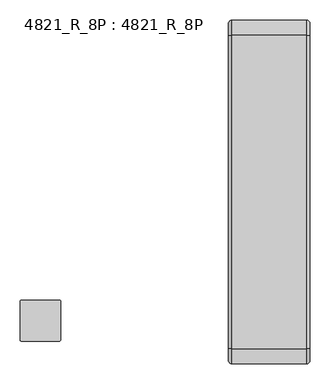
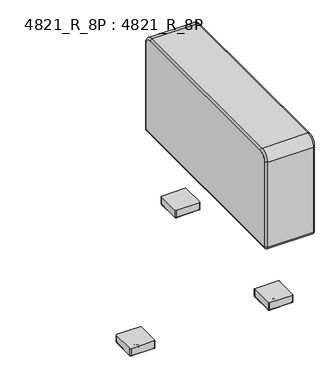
"""IFC4 building model written with IfcOpenShell, lengths in millimetres: furniture geometry, 4821_R_8P : 4821_R_8P."""

from ifc_helpers import new_model, si_unit, point, frame, frame_2d, origin, place, context, project, spatial, polyline, circle_curve, ellipse_curve, trimmed, segment, composite_curve, outline, extrude, source, transform, mapped, element, save
from ifc_brep_helpers import plane_surface, cylinder_surface, revolved_surface, advanced_brep


def furniture_4821_r_8p_4821_r_8p_0f517ffc(model_context):
    return source(origin(), model_context, "Body", "SolidModel", [
        advanced_brep(
        [(0.0, -8.89, 698.8175), (0.0, -38.1, 728.0275), (0.0, -819.15, 728.0275), (0.0, -848.36, 698.8175), (0.0, -848.36, 330.4403326), (0.0, -847.8021674, 329.8825), (0.0, -9.4347305, 329.8825), (0.0, -8.89, 330.4272305), (-203.2, -38.1, 728.0275), (-203.2, -8.89, 698.8175), (-203.2, -8.89, 330.4272305), (-203.2, -9.4347305, 329.8825), (-203.2, -847.8021674, 329.8825), (-203.2, -848.36, 330.4403326), (-203.2, -848.36, 698.8175), (-203.2, -819.15, 728.0275), (-194.31, -38.1, 736.9175), (-194.31, -819.15, 736.9175), (-8.89, -819.15, 736.9175), (-8.89, -38.1, 736.9175), (-194.31, -857.25, 698.8175), (-8.89, -857.25, 698.8175), (-194.31, -857.25, 330.4403326), (-8.89, -857.25, 330.4403326), (-194.31, -847.8021674, 320.9925), (-8.89, -847.8021674, 320.9925), (-194.31, -9.4347305, 320.9925), (-8.89, -9.4347305, 320.9925), (-146.05, -187.325, 320.9925), (-146.05, -161.925, 320.9925), (-146.05, -695.325, 320.9925), (-146.05, -669.925, 320.9925), (-194.31, 0.0, 330.4272305), (-8.89, 0.0, 330.4272305), (-194.31, 0.0, 698.8175), (-8.89, 0.0, 698.8175), (-146.05, -161.925, 333.6925), (-146.05, -187.325, 333.6925), (-146.05, -669.925, 333.6925), (-146.05, -695.325, 333.6925)],
        [
            (0, 1, circle_curve(frame((0.0, -38.1, 698.8175), z_axis=(1.0, 0.0, 0.0), x_axis=(0.0, 0.0, 1.0)), 29.21)),
            (1, 2),
            (2, 3, circle_curve(frame((0.0, -819.15, 698.8175), z_axis=(1.0, 0.0, 0.0), x_axis=(0.0, -1.0, 0.0)), 29.21)),
            (3, 4),
            (4, 5, circle_curve(frame((0.0, -847.8021674, 330.4403326), z_axis=(1.0, 0.0, 0.0), x_axis=(0.0, 0.0, -1.0)), 0.5578326)),
            (5, 6),
            (6, 7, circle_curve(frame((0.0, -9.4347305, 330.4272305), z_axis=(1.0, 0.0, 0.0), x_axis=(0.0, 1.0, 0.0)), 0.5447305)),
            (7, 0),
            (8, 9, circle_curve(frame((-203.2, -38.1, 698.8175), z_axis=(-1.0, 0.0, 0.0), x_axis=(0.0, 0.0, 1.0)), 29.21)),
            (9, 10),
            (10, 11, circle_curve(frame((-203.2, -9.4347305, 330.4272305), z_axis=(-1.0, 0.0, 0.0), x_axis=(0.0, 1.0, 0.0)), 0.5447305)),
            (11, 12),
            (12, 13, circle_curve(frame((-203.2, -847.8021674, 330.4403326), z_axis=(-1.0, 0.0, 0.0), x_axis=(0.0, 0.0, -1.0)), 0.5578326)),
            (13, 14),
            (14, 15, circle_curve(frame((-203.2, -819.15, 698.8175), z_axis=(-1.0, 0.0, 0.0), x_axis=(0.0, -1.0, 0.0)), 29.21)),
            (15, 8),
            (16, 17),
            (17, 18),
            (18, 19),
            (19, 16),
            (17, 20, circle_curve(frame((-194.31, -819.15, 698.8175), z_axis=(1.0, 0.0, 0.0), x_axis=(0.0, -1.0, 0.0)), 38.1)),
            (20, 21),
            (21, 18, circle_curve(frame((-8.89, -819.15, 698.8175), z_axis=(-1.0, 0.0, 0.0), x_axis=(0.0, -1.0, 0.0)), 38.1)),
            (20, 22),
            (22, 23),
            (23, 21),
            (22, 24, circle_curve(frame((-194.31, -847.8021674, 330.4403326), z_axis=(1.0, 0.0, 0.0), x_axis=(0.0, -1.0, 0.0)), 9.4478326)),
            (24, 25),
            (25, 23, circle_curve(frame((-8.89, -847.8021674, 330.4403326), z_axis=(-1.0, 0.0, 0.0), x_axis=(0.0, -1.0, 0.0)), 9.4478326)),
            (24, 26),
            (26, 27),
            (27, 25),
            (28, 29, circle_curve(frame((-146.05, -174.625, 320.9925), z_axis=(0.0, 0.0, 1.0), x_axis=(-1.0, 0.0, 0.0)), 12.7)),
            (29, 28),
            (30, 31, circle_curve(frame((-146.05, -682.625, 320.9925), z_axis=(0.0, 0.0, 1.0), x_axis=(-1.0, 0.0, 0.0)), 12.7)),
            (31, 30),
            (26, 32, circle_curve(frame((-194.31, -9.4347305, 330.4272305), z_axis=(1.0, 0.0, 0.0), x_axis=(0.0, -1.0, 0.0)), 9.4347305)),
            (32, 33),
            (33, 27, circle_curve(frame((-8.89, -9.4347305, 330.4272305), z_axis=(-1.0, 0.0, 0.0), x_axis=(0.0, -1.0, 0.0)), 9.4347305)),
            (32, 34),
            (34, 35),
            (35, 33),
            (34, 16, circle_curve(frame((-194.31, -38.1, 698.8175), z_axis=(1.0, 0.0, 0.0), x_axis=(0.0, -1.0, 0.0)), 38.1)),
            (19, 35, circle_curve(frame((-8.89, -38.1, 698.8175), z_axis=(-1.0, 0.0, 0.0), x_axis=(0.0, -1.0, 0.0)), 38.1)),
            (34, 9, circle_curve(frame((-194.31, -8.89, 698.8175), z_axis=(0.0, 0.0, 1.0), x_axis=(1.0, 0.0, 0.0)), 8.89)),
            (8, 16, circle_curve(frame((-194.31, -38.1, 728.0275), z_axis=(0.0, 1.0, 0.0), x_axis=(1.0, 0.0, 0.0)), 8.89)),
            (32, 10, circle_curve(frame((-194.31, -8.89, 330.4272305), z_axis=(0.0, 0.0, 1.0), x_axis=(1.0, 0.0, 0.0)), 8.89)),
            (26, 11, circle_curve(frame((-194.31, -9.4347305, 329.8825), z_axis=(0.0, 1.0, 0.0), x_axis=(1.0, 0.0, 0.0)), 8.89)),
            (24, 12, circle_curve(frame((-194.31, -847.8021674, 329.8825), z_axis=(0.0, 1.0, 0.0), x_axis=(1.0, 0.0, 0.0)), 8.89)),
            (22, 13, circle_curve(frame((-194.31, -848.36, 330.4403326), z_axis=(0.0, 0.0, -1.0), x_axis=(1.0, 0.0, 0.0)), 8.89)),
            (20, 14, circle_curve(frame((-194.31, -848.36, 698.8175), z_axis=(0.0, 0.0, -1.0), x_axis=(1.0, 0.0, 0.0)), 8.89)),
            (17, 15, circle_curve(frame((-194.31, -819.15, 728.0275), z_axis=(0.0, -1.0, 0.0), x_axis=(1.0, 0.0, 0.0)), 8.89)),
            (0, 35, circle_curve(frame((-8.89, -8.89, 698.8175), z_axis=(0.0, 0.0, 1.0), x_axis=(-1.0, 0.0, 0.0)), 8.89)),
            (19, 1, circle_curve(frame((-8.89, -38.1, 728.0275), z_axis=(0.0, 1.0, 0.0), x_axis=(-1.0, 0.0, 0.0)), 8.89)),
            (7, 33, circle_curve(frame((-8.89, -8.89, 330.4272305), z_axis=(0.0, 0.0, 1.0), x_axis=(-1.0, 0.0, 0.0)), 8.89)),
            (6, 27, circle_curve(frame((-8.89, -9.4347305, 329.8825), z_axis=(0.0, 1.0, 0.0), x_axis=(-1.0, 0.0, 0.0)), 8.89)),
            (5, 25, circle_curve(frame((-8.89, -847.8021674, 329.8825), z_axis=(0.0, 1.0, 0.0), x_axis=(-1.0, 0.0, 0.0)), 8.89)),
            (4, 23, circle_curve(frame((-8.89, -848.36, 330.4403326), z_axis=(0.0, 0.0, -1.0), x_axis=(-1.0, 0.0, 0.0)), 8.89)),
            (3, 21, circle_curve(frame((-8.89, -848.36, 698.8175), z_axis=(0.0, 0.0, -1.0), x_axis=(-1.0, 0.0, 0.0)), 8.89)),
            (2, 18, circle_curve(frame((-8.89, -819.15, 728.0275), z_axis=(0.0, -1.0, 0.0), x_axis=(-1.0, 0.0, 0.0)), 8.89)),
            (36, 37, circle_curve(frame((-146.05, -174.625, 333.6925), z_axis=(0.0, 0.0, -1.0), x_axis=(-1.0, 0.0, 0.0)), 12.7)),
            (37, 36),
            (38, 39, circle_curve(frame((-146.05, -682.625, 333.6925), z_axis=(0.0, 0.0, -1.0), x_axis=(-1.0, 0.0, 0.0)), 12.7)),
            (39, 38),
            (36, 29),
            (28, 37),
            (38, 31),
            (30, 39),
        ],
        [
            plane_surface(frame((0.0, -819.15, 736.9175), z_axis=(1.0, 0.0, 0.0), x_axis=(0.0, -1.0, 0.0))),
            plane_surface(frame((-203.2, -819.15, 736.9175), z_axis=(-1.0, 0.0, 0.0), x_axis=(0.0, 1.0, 0.0))),
            plane_surface(frame((0.0, -38.1, 736.9175), z_axis=(0.0, 0.0, 1.0), x_axis=(-1.0, 0.0, 0.0))),
            cylinder_surface(frame((-203.2, -819.15, 698.8175), z_axis=(1.0, 0.0, 0.0), x_axis=(0.0, -1.0, 0.0)), 38.1),
            plane_surface(frame((0.0, -857.25, 698.8175), z_axis=(0.0, -1.0, 0.0), x_axis=(-1.0, 0.0, 0.0))),
            cylinder_surface(frame((-203.2, -847.8021674, 330.4403326), z_axis=(1.0, 0.0, 0.0), x_axis=(0.0, -1.0, 0.0)), 9.4478326),
            plane_surface(frame((0.0, -847.8021674, 320.9925), z_axis=(0.0, 0.0, -1.0), x_axis=(-1.0, 0.0, 0.0))),
            cylinder_surface(frame((-203.2, -9.4347305, 330.4272305), z_axis=(1.0, 0.0, 0.0), x_axis=(0.0, -1.0, 0.0)), 9.4347305),
            plane_surface(frame((0.0, 0.0, 330.4272305), z_axis=(0.0, 1.0, 0.0), x_axis=(-1.0, 0.0, 0.0))),
            cylinder_surface(frame((-203.2, -38.1, 698.8175), z_axis=(1.0, 0.0, 0.0), x_axis=(0.0, -1.0, 0.0)), 38.1),
            revolved_surface(trimmed(ellipse_curve(frame((-194.31, -38.1, 728.0275), z_axis=(0.0, -1.0, 0.0), x_axis=(1.0, 0.0, 0.0)), 8.89, 8.89), [point((-194.31, -38.1, 736.9175))], [point((-203.2, -38.1, 728.0275))], True, "CARTESIAN"), (-203.2, -38.1, 698.8175), (-1.0, 0.0, 0.0)),
            cylinder_surface(frame((-194.31, -8.89, 698.8175), z_axis=(0.0, 0.0, -1.0), x_axis=(1.0, 0.0, 0.0)), 8.89),
            revolved_surface(trimmed(ellipse_curve(frame((-194.31, -8.89, 330.4272305), z_axis=(0.0, 0.0, 1.0), x_axis=(1.0, 0.0, 0.0)), 8.89, 8.89), [point((-194.31, 0.0, 330.4272305))], [point((-203.2, -8.89, 330.4272305))], True, "CARTESIAN"), (-203.2, -9.4347305, 330.4272305), (-1.0, 0.0, 0.0)),
            cylinder_surface(frame((-194.31, -9.4347305, 329.8825), z_axis=(0.0, -1.0, 0.0), x_axis=(1.0, 0.0, 0.0)), 8.89),
            revolved_surface(trimmed(ellipse_curve(frame((-194.31, -847.8021674, 329.8825), z_axis=(0.0, 1.0, 0.0), x_axis=(1.0, 0.0, 0.0)), 8.89, 8.89), [point((-194.31, -847.8021674, 320.9925))], [point((-203.2, -847.8021674, 329.8825))], True, "CARTESIAN"), (-203.2, -847.8021674, 330.4403326), (-1.0, 0.0, 0.0)),
            cylinder_surface(frame((-194.31, -848.36, 330.4403326), z_axis=(0.0, 0.0, 1.0), x_axis=(1.0, 0.0, 0.0)), 8.89),
            revolved_surface(trimmed(ellipse_curve(frame((-194.31, -848.36, 698.8175), z_axis=(0.0, 0.0, -1.0), x_axis=(1.0, 0.0, 0.0)), 8.89, 8.89), [point((-194.31, -857.25, 698.8175))], [point((-203.2, -848.36, 698.8175))], True, "CARTESIAN"), (-203.2, -819.15, 698.8175), (-1.0, 0.0, 0.0)),
            cylinder_surface(frame((-194.31, -819.15, 728.0275), z_axis=(0.0, 1.0, 0.0), x_axis=(1.0, 0.0, 0.0)), 8.89),
            revolved_surface(trimmed(ellipse_curve(frame((-8.89, -38.1, 728.0275), z_axis=(0.0, -1.0, 0.0), x_axis=(-1.0, 0.0, 0.0)), 8.89, 8.89), [point((0.0, -38.1, 728.0275))], [point((-8.89, -38.1, 736.9175))], True, "CARTESIAN"), (0.0, -38.1, 698.8175), (-1.0, 0.0, 0.0)),
            cylinder_surface(frame((-8.89, -8.89, 698.8175), z_axis=(0.0, 0.0, -1.0), x_axis=(-1.0, 0.0, 0.0)), 8.89),
            revolved_surface(trimmed(ellipse_curve(frame((-8.89, -8.89, 330.4272305), z_axis=(0.0, 0.0, 1.0), x_axis=(-1.0, 0.0, 0.0)), 8.89, 8.89), [point((0.0, -8.89, 330.4272305))], [point((-8.89, 0.0, 330.4272305))], True, "CARTESIAN"), (0.0, -9.4347305, 330.4272305), (-1.0, 0.0, 0.0)),
            cylinder_surface(frame((-8.89, -9.4347305, 329.8825), z_axis=(0.0, -1.0, 0.0), x_axis=(-1.0, 0.0, 0.0)), 8.89),
            revolved_surface(trimmed(ellipse_curve(frame((-8.89, -847.8021674, 329.8825), z_axis=(0.0, 1.0, 0.0), x_axis=(-1.0, 0.0, 0.0)), 8.89, 8.89), [point((0.0, -847.8021674, 329.8825))], [point((-8.89, -847.8021674, 320.9925))], True, "CARTESIAN"), (0.0, -847.8021674, 330.4403326), (-1.0, 0.0, 0.0)),
            cylinder_surface(frame((-8.89, -848.36, 330.4403326), z_axis=(0.0, 0.0, 1.0), x_axis=(-1.0, 0.0, 0.0)), 8.89),
            revolved_surface(trimmed(ellipse_curve(frame((-8.89, -848.36, 698.8175), z_axis=(0.0, 0.0, -1.0), x_axis=(-1.0, 0.0, 0.0)), 8.89, 8.89), [point((0.0, -848.36, 698.8175))], [point((-8.89, -857.25, 698.8175))], True, "CARTESIAN"), (0.0, -819.15, 698.8175), (-1.0, 0.0, 0.0)),
            cylinder_surface(frame((-8.89, -819.15, 728.0275), z_axis=(0.0, 1.0, 0.0), x_axis=(-1.0, 0.0, 0.0)), 8.89),
            plane_surface(frame((-146.05, -187.325, 333.6925), z_axis=(0.0, 0.0, -1.0), x_axis=(0.0, -1.0, 0.0))),
            revolved_surface(polyline([(-158.75, -174.625, 333.6925), (-158.75, -174.625, 320.9925)]), (-146.05, -174.625, 320.9925), (0.0, 0.0, 1.0)),
            plane_surface(frame((-146.05, -161.925, 333.6925), z_axis=(1.0, 0.0, 0.0), x_axis=(0.0, 0.0, -1.0))),
            revolved_surface(polyline([(-158.75, -682.625, 333.6925), (-158.75, -682.625, 320.9925)]), (-146.05, -682.625, 9.8425), (0.0, 0.0, 1.0)),
            plane_surface(frame((-146.05, -669.925, 333.6925), z_axis=(1.0, 0.0, 0.0), x_axis=(0.0, 0.0, -1.0))),
        ],
        [
            (0, [[1, 2, 3, 4, 5, 6, 7, 8]]),
            (1, [[9, 10, 11, 12, 13, 14, 15, 16]]),
            (2, [[17, 18, 19, 20]]),
            (3, [[21, 22, 23, -18]]),
            (4, [[24, 25, 26, -22]]),
            (5, [[27, 28, 29, -25]]),
            (6, [[30, 31, 32, -28], [33, 34], [35, 36]]),
            (7, [[37, 38, 39, -31]]),
            (8, [[40, 41, 42, -38]]),
            (9, [[43, -20, 44, -41]]),
            (10, [[45, -9, 46, -43]]),
            (11, [[-45, -40, 47, -10]]),
            (12, [[-47, -37, 48, -11]]),
            (13, [[-48, -30, 49, -12]]),
            (14, [[-49, -27, 50, -13]]),
            (15, [[-50, -24, 51, -14]]),
            (16, [[-51, -21, 52, -15]]),
            (17, [[-46, -16, -52, -17]]),
            (18, [[53, -44, 54, -1]]),
            (19, [[-53, -8, 55, -42]]),
            (20, [[-55, -7, 56, -39]]),
            (21, [[-56, -6, 57, -32]]),
            (22, [[-57, -5, 58, -29]]),
            (23, [[-58, -4, 59, -26]]),
            (24, [[-59, -3, 60, -23]]),
            (25, [[-54, -19, -60, -2]]),
            (26, [[61, 62]]),
            (26, [[63, 64]]),
            (27, [[-61, 65, -33, 66]]),
            (28, [[-62, -66, -34, -65]]),
            (29, [[-63, 67, -35, 68]]),
            (30, [[-64, -68, -36, -67]]),
        ],
    ),
        advanced_brep(
        [(-625.475, -698.5, 41.5925), (-720.725, -698.5, 41.5925), (-723.9, -701.675, 41.5925), (-723.9, -796.925, 41.5925), (-720.725, -800.1, 41.5925), (-625.475, -800.1, 41.5925), (-622.3, -796.925, 41.5925), (-622.3, -701.675, 41.5925), (-722.63, -701.675, 11.1125), (-720.725, -699.77, 11.1125), (-625.475, -699.77, 11.1125), (-623.57, -701.675, 11.1125), (-623.57, -796.925, 11.1125), (-625.475, -798.83, 11.1125), (-720.725, -798.83, 11.1125), (-722.63, -796.925, 11.1125), (-625.475, -698.5, 11.1125), (-720.725, -698.5, 11.1125), (-723.9, -701.675, 11.1125), (-723.9, -796.925, 11.1125), (-720.725, -800.1, 11.1125), (-625.475, -800.1, 11.1125), (-622.3, -796.925, 11.1125), (-622.3, -701.675, 11.1125), (-720.725, -699.77, 9.8425), (-722.63, -701.675, 9.8425), (-625.475, -699.77, 9.8425), (-623.57, -701.675, 9.8425), (-623.57, -796.925, 9.8425), (-625.475, -798.83, 9.8425), (-720.725, -798.83, 9.8425), (-722.63, -796.925, 9.8425)],
        [
            (0, 1),
            (1, 2, circle_curve(frame((-720.725, -701.675, 41.5925), z_axis=(0.0, 0.0, 1.0), x_axis=(1.0, 0.0, 0.0)), 3.175)),
            (2, 3),
            (3, 4, circle_curve(frame((-720.725, -796.925, 41.5925), z_axis=(0.0, 0.0, 1.0), x_axis=(1.0, 0.0, 0.0)), 3.175)),
            (4, 5),
            (5, 6, circle_curve(frame((-625.475, -796.925, 41.5925), z_axis=(0.0, 0.0, 1.0), x_axis=(1.0, 0.0, 0.0)), 3.175)),
            (6, 7),
            (7, 0, circle_curve(frame((-625.475, -701.675, 41.5925), z_axis=(0.0, 0.0, 1.0), x_axis=(1.0, 0.0, 0.0)), 3.175)),
            (8, 9, circle_curve(frame((-720.725, -701.675, 11.1125), z_axis=(0.0, 0.0, -1.0), x_axis=(-1.0, 0.0, 0.0)), 1.905)),
            (9, 10),
            (10, 11, circle_curve(frame((-625.475, -701.675, 11.1125), z_axis=(0.0, 0.0, -1.0), x_axis=(0.0, 1.0, 0.0)), 1.905)),
            (11, 12),
            (12, 13, circle_curve(frame((-625.475, -796.925, 11.1125), z_axis=(0.0, 0.0, -1.0), x_axis=(1.0, 0.0, 0.0)), 1.905)),
            (13, 14),
            (14, 15, circle_curve(frame((-720.725, -796.925, 11.1125), z_axis=(0.0, 0.0, -1.0), x_axis=(0.0, -1.0, 0.0)), 1.905)),
            (15, 8),
            (0, 16),
            (16, 17),
            (17, 1),
            (17, 18, circle_curve(frame((-720.725, -701.675, 11.1125), z_axis=(0.0, 0.0, 1.0), x_axis=(1.0, 0.0, 0.0)), 3.175)),
            (18, 2),
            (18, 19),
            (19, 3),
            (19, 20, circle_curve(frame((-720.725, -796.925, 11.1125), z_axis=(0.0, 0.0, 1.0), x_axis=(1.0, 0.0, 0.0)), 3.175)),
            (20, 4),
            (20, 21),
            (21, 5),
            (21, 22, circle_curve(frame((-625.475, -796.925, 11.1125), z_axis=(0.0, 0.0, 1.0), x_axis=(1.0, 0.0, 0.0)), 3.175)),
            (22, 6),
            (22, 23),
            (23, 7),
            (23, 16, circle_curve(frame((-625.475, -701.675, 11.1125), z_axis=(0.0, 0.0, 1.0), x_axis=(1.0, 0.0, 0.0)), 3.175)),
            (24, 25, circle_curve(frame((-720.725, -701.675, 9.8425), z_axis=(0.0, 0.0, 1.0), x_axis=(-1.0, 0.0, 0.0)), 1.905)),
            (25, 18, circle_curve(frame((-722.63, -701.675, 11.1125), z_axis=(0.0, 1.0, 0.0), x_axis=(1.0, 0.0, 0.0)), 1.27)),
            (17, 24, circle_curve(frame((-720.725, -699.77, 11.1125), z_axis=(-1.0, 0.0, 0.0), x_axis=(0.0, -1.0, 0.0)), 1.27)),
            (16, 26, circle_curve(frame((-625.475, -699.77, 11.1125), z_axis=(-1.0, 0.0, 0.0), x_axis=(0.0, -1.0, 0.0)), 1.27)),
            (26, 24),
            (23, 27, circle_curve(frame((-623.57, -701.675, 11.1125), z_axis=(0.0, 1.0, 0.0), x_axis=(-1.0, 0.0, 0.0)), 1.27)),
            (27, 26, circle_curve(frame((-625.475, -701.675, 9.8425), z_axis=(0.0, 0.0, 1.0), x_axis=(0.0, 1.0, 0.0)), 1.905)),
            (22, 28, circle_curve(frame((-623.57, -796.925, 11.1125), z_axis=(0.0, 1.0, 0.0), x_axis=(-1.0, 0.0, 0.0)), 1.27)),
            (28, 27),
            (21, 29, circle_curve(frame((-625.475, -798.83, 11.1125), z_axis=(1.0, 0.0, 0.0), x_axis=(0.0, 1.0, 0.0)), 1.27)),
            (29, 28, circle_curve(frame((-625.475, -796.925, 9.8425), z_axis=(0.0, 0.0, 1.0), x_axis=(1.0, 0.0, 0.0)), 1.905)),
            (20, 30, circle_curve(frame((-720.725, -798.83, 11.1125), z_axis=(1.0, 0.0, 0.0), x_axis=(0.0, 1.0, 0.0)), 1.27)),
            (30, 29),
            (19, 31, circle_curve(frame((-722.63, -796.925, 11.1125), z_axis=(0.0, -1.0, 0.0), x_axis=(1.0, 0.0, 0.0)), 1.27)),
            (31, 30, circle_curve(frame((-720.725, -796.925, 9.8425), z_axis=(0.0, 0.0, 1.0), x_axis=(0.0, -1.0, 0.0)), 1.905)),
            (25, 31),
            (24, 9),
            (8, 25),
            (26, 10),
            (27, 11),
            (28, 12),
            (29, 13),
            (30, 14),
            (31, 15),
        ],
        [
            plane_surface(frame((-720.725, -698.5, 41.5925), z_axis=(0.0, 0.0, 1.0), x_axis=(-1.0, 0.0, 0.0))),
            plane_surface(frame((-720.725, -698.5, 11.1125), z_axis=(0.0, 0.0, -1.0), x_axis=(1.0, 0.0, 0.0))),
            plane_surface(frame((-625.475, -698.5, 41.5925), z_axis=(0.0, 1.0, 0.0), x_axis=(0.0, 0.0, -1.0))),
            cylinder_surface(frame((-720.725, -701.675, 11.1125), z_axis=(0.0, 0.0, 1.0), x_axis=(1.0, 0.0, 0.0)), 3.175),
            plane_surface(frame((-723.9, -701.675, 41.5925), z_axis=(-1.0, 0.0, 0.0), x_axis=(0.0, 0.0, -1.0))),
            cylinder_surface(frame((-720.725, -796.925, 11.1125), z_axis=(0.0, 0.0, 1.0), x_axis=(1.0, 0.0, 0.0)), 3.175),
            plane_surface(frame((-720.725, -800.1, 41.5925), z_axis=(0.0, -1.0, 0.0), x_axis=(0.0, 0.0, -1.0))),
            cylinder_surface(frame((-625.475, -796.925, 11.1125), z_axis=(0.0, 0.0, 1.0), x_axis=(1.0, 0.0, 0.0)), 3.175),
            plane_surface(frame((-622.3, -796.925, 41.5925), z_axis=(1.0, 0.0, 0.0), x_axis=(0.0, 0.0, -1.0))),
            cylinder_surface(frame((-625.475, -701.675, 11.1125), z_axis=(0.0, 0.0, 1.0), x_axis=(1.0, 0.0, 0.0)), 3.175),
            revolved_surface(trimmed(ellipse_curve(frame((-722.63, -701.675, 11.1125), z_axis=(0.0, -1.0, 0.0), x_axis=(1.0, 0.0, 0.0)), 1.27, 1.27), [point((-723.9, -701.675, 11.1125))], [point((-722.63, -701.675, 9.8425))], True, "CARTESIAN"), (-720.725, -701.675, 11.1125), (0.0, 0.0, -1.0)),
            cylinder_surface(frame((-720.725, -699.77, 11.1125), z_axis=(-1.0, 0.0, 0.0), x_axis=(0.0, -1.0, 0.0)), 1.27),
            revolved_surface(trimmed(ellipse_curve(frame((-625.475, -699.77, 11.1125), z_axis=(-1.0, 0.0, 0.0), x_axis=(0.0, -1.0, 0.0)), 1.27, 1.27), [point((-625.475, -698.5, 11.1125))], [point((-625.475, -699.77, 9.8425))], True, "CARTESIAN"), (-625.475, -701.675, 11.1125), (0.0, 0.0, -1.0)),
            cylinder_surface(frame((-623.57, -701.675, 11.1125), z_axis=(0.0, 1.0, 0.0), x_axis=(-1.0, 0.0, 0.0)), 1.27),
            revolved_surface(trimmed(ellipse_curve(frame((-623.57, -796.925, 11.1125), z_axis=(0.0, 1.0, 0.0), x_axis=(-1.0, 0.0, 0.0)), 1.27, 1.27), [point((-622.3, -796.925, 11.1125))], [point((-623.57, -796.925, 9.8425))], True, "CARTESIAN"), (-625.475, -796.925, 11.1125), (0.0, 0.0, -1.0)),
            cylinder_surface(frame((-625.475, -798.83, 11.1125), z_axis=(1.0, 0.0, 0.0), x_axis=(0.0, 1.0, 0.0)), 1.27),
            revolved_surface(trimmed(ellipse_curve(frame((-720.725, -798.83, 11.1125), z_axis=(1.0, 0.0, 0.0), x_axis=(0.0, 1.0, 0.0)), 1.27, 1.27), [point((-720.725, -800.1, 11.1125))], [point((-720.725, -798.83, 9.8425))], True, "CARTESIAN"), (-720.725, -796.925, 11.1125), (0.0, 0.0, -1.0)),
            cylinder_surface(frame((-722.63, -796.925, 11.1125), z_axis=(0.0, -1.0, 0.0), x_axis=(1.0, 0.0, 0.0)), 1.27),
            revolved_surface(polyline([(-722.63, -701.675, 9.8425), (-722.63, -701.675, 11.1125)]), (-720.725, -701.675, 11.1125), (0.0, 0.0, -1.0)),
            plane_surface(frame((-720.725, -699.77, 9.8425), z_axis=(0.0, -1.0, 0.0), x_axis=(1.0, 0.0, 0.0))),
            revolved_surface(polyline([(-625.475, -699.77, 9.8425), (-625.475, -699.77, 11.1125)]), (-625.475, -701.675, 11.1125), (0.0, 0.0, -1.0)),
            plane_surface(frame((-623.57, -701.675, 9.8425), z_axis=(-1.0, 0.0, 0.0), x_axis=(0.0, -1.0, 0.0))),
            revolved_surface(polyline([(-623.57, -796.925, 9.8425), (-623.57, -796.925, 11.1125)]), (-625.475, -796.925, 11.1125), (0.0, 0.0, -1.0)),
            plane_surface(frame((-625.475, -798.83, 9.8425), z_axis=(0.0, 1.0, 0.0), x_axis=(-1.0, 0.0, 0.0))),
            revolved_surface(polyline([(-720.725, -798.8299999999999, 9.8425), (-720.725, -798.8299999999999, 11.1125)]), (-720.725, -796.925, 11.1125), (0.0, 0.0, -1.0)),
            plane_surface(frame((-722.63, -796.925, 9.8425), z_axis=(1.0, 0.0, 0.0), x_axis=(0.0, 1.0, 0.0))),
        ],
        [
            (0, [[1, 2, 3, 4, 5, 6, 7, 8]]),
            (1, [[9, 10, 11, 12, 13, 14, 15, 16]]),
            (2, [[-1, 17, 18, 19]]),
            (3, [[-2, -19, 20, 21]]),
            (4, [[-3, -21, 22, 23]]),
            (5, [[-4, -23, 24, 25]]),
            (6, [[-5, -25, 26, 27]]),
            (7, [[-6, -27, 28, 29]]),
            (8, [[-7, -29, 30, 31]]),
            (9, [[-8, -31, 32, -17]]),
            (10, [[33, 34, -20, 35]]),
            (11, [[-35, -18, 36, 37]]),
            (12, [[-36, -32, 38, 39]]),
            (13, [[-38, -30, 40, 41]]),
            (14, [[-40, -28, 42, 43]]),
            (15, [[-42, -26, 44, 45]]),
            (16, [[-44, -24, 46, 47]]),
            (17, [[-34, 48, -46, -22]]),
            (18, [[-33, 49, -9, 50]]),
            (19, [[-37, 51, -10, -49]]),
            (20, [[-39, 52, -11, -51]]),
            (21, [[-41, 53, -12, -52]]),
            (22, [[-43, 54, -13, -53]]),
            (23, [[-45, 55, -14, -54]]),
            (24, [[-47, 56, -15, -55]]),
            (25, [[-48, -50, -16, -56]]),
        ],
    ),
        extrude(outline(composite_curve([segment(trimmed(circle_curve(frame_2d((-720.725, -796.925)), 1.905), [point((-720.725, -798.83))], [point((-722.63, -796.925))], False, "CARTESIAN"), True, "CONTINUOUS"), segment(polyline([(-722.63, -796.925), (-722.63, -701.675)]), True, "CONTINUOUS"), segment(trimmed(circle_curve(frame_2d((-720.725, -701.675)), 1.905), [point((-722.63, -701.675))], [point((-720.725, -699.77))], False, "CARTESIAN"), True, "CONTINUOUS"), segment(polyline([(-720.725, -699.77), (-625.475, -699.77)]), True, "CONTINUOUS"), segment(trimmed(circle_curve(frame_2d((-625.475, -701.675)), 1.905), [point((-625.475, -699.77))], [point((-623.57, -701.675))], False, "CARTESIAN"), True, "CONTINUOUS"), segment(polyline([(-623.57, -701.675), (-623.57, -796.925)]), True, "CONTINUOUS"), segment(trimmed(circle_curve(frame_2d((-625.475, -796.925)), 1.905), [point((-623.57, -796.925))], [point((-625.475, -798.83))], False, "CARTESIAN"), True, "CONTINUOUS"), segment(polyline([(-625.475, -798.83), (-720.725, -798.83)]), True, "CONTINUOUS")], self_intersect=False)), frame((0.0, 0.0, 9.8425), z_axis=(0.0, 0.0, 1.0), x_axis=(1.0, 0.0, 0.0)), (0.0, 0.0, 1.0), 1.27),
        advanced_brep(
        [(-683.2521334, -749.3, 0.0), (-662.9478666, -749.3, 0.0), (-673.1, -749.3, 0.0), (-683.5775, -749.3, 5.08), (-662.6225, -749.3, 5.08), (-683.5775, -749.3, 9.0481974), (-662.6225, -749.3, 9.0481974), (-682.7831974, -749.3, 9.8425), (-663.4168026, -749.3, 9.8425), (-673.1, -749.3, 9.8425)],
        [
            (0, 1, circle_curve(frame((-673.1, -749.3, 0.0), z_axis=(0.0, 0.0, -1.0), x_axis=(1.0, 0.0, 0.0)), 10.1521334)),
            (1, 2),
            (2, 0),
            (1, 0, circle_curve(frame((-673.1, -749.3, 0.0), z_axis=(0.0, 0.0, -1.0), x_axis=(1.0, 0.0, 0.0)), 10.1521334)),
            (3, 4, circle_curve(frame((-673.1, -749.3, 5.08), z_axis=(0.0, 0.0, -1.0), x_axis=(1.0, 0.0, 0.0)), 10.4775)),
            (4, 1, circle_curve(frame((-662.9478666, -749.3, 2.5504196), z_axis=(0.0, 1.0, 0.0), x_axis=(1.0, 0.0, 0.0)), 2.5504196)),
            (0, 3, circle_curve(frame((-683.2521334, -749.3, 2.5504196), z_axis=(0.0, 1.0, 0.0), x_axis=(-1.0, 0.0, 0.0)), 2.5504196)),
            (4, 3, circle_curve(frame((-673.1, -749.3, 5.08), z_axis=(0.0, 0.0, -1.0), x_axis=(1.0, 0.0, 0.0)), 10.4775)),
            (5, 6, circle_curve(frame((-673.1, -749.3, 9.0481974), z_axis=(0.0, 0.0, -1.0), x_axis=(1.0, 0.0, 0.0)), 10.4775)),
            (6, 4),
            (3, 5),
            (6, 5, circle_curve(frame((-673.1, -749.3, 9.0481974), z_axis=(0.0, 0.0, -1.0), x_axis=(1.0, 0.0, 0.0)), 10.4775)),
            (7, 8, circle_curve(frame((-673.1, -749.3, 9.8425), z_axis=(0.0, 0.0, -1.0), x_axis=(1.0, 0.0, 0.0)), 9.6831974)),
            (8, 6, circle_curve(frame((-663.4168026, -749.3, 9.0481974), z_axis=(0.0, 1.0, 0.0), x_axis=(1.0, 0.0, 0.0)), 0.7943026)),
            (5, 7, circle_curve(frame((-682.7831974, -749.3, 9.0481974), z_axis=(0.0, 1.0, 0.0), x_axis=(-1.0, 0.0, 0.0)), 0.7943026)),
            (8, 7, circle_curve(frame((-673.1, -749.3, 9.8425), z_axis=(0.0, 0.0, -1.0), x_axis=(1.0, 0.0, 0.0)), 9.6831974)),
            (9, 8),
            (7, 9),
        ],
        [
            plane_surface(frame((-673.1, -749.3, 0.0), z_axis=(0.0, 0.0, -1.0), x_axis=(1.0, 0.0, 0.0))),
            revolved_surface(trimmed(ellipse_curve(frame((-662.9478666, -749.3, 2.5504196), z_axis=(0.0, -1.0, 0.0), x_axis=(1.0, 0.0, 0.0)), 2.5504196, 2.5504196), [point((-662.9478666, -749.3, 0.0))], [point((-662.6225, -749.3, 5.08))], True, "CARTESIAN"), (-673.1, -749.3, 9.8425), (0.0, 0.0, 1.0)),
            cylinder_surface(frame((-673.1, -749.3, 9.8425), z_axis=(0.0, 0.0, 1.0), x_axis=(1.0, 0.0, 0.0)), 10.4775),
            revolved_surface(trimmed(ellipse_curve(frame((-663.4168026, -749.3, 9.0481974), z_axis=(0.0, -1.0, 0.0), x_axis=(1.0, 0.0, 0.0)), 0.7943026, 0.7943026), [point((-662.6225, -749.3, 9.0481974))], [point((-663.4168026, -749.3, 9.8425))], True, "CARTESIAN"), (-673.1, -749.3, 9.8425), (0.0, 0.0, 1.0)),
            plane_surface(frame((-673.1, -749.3, 9.8425), z_axis=(0.0, 0.0, 1.0), x_axis=(1.0, 0.0, 0.0))),
        ],
        [
            (0, [[1, 2, 3]]),
            (0, [[4, -3, -2]]),
            (1, [[5, 6, -1, 7]]),
            (1, [[8, -7, -4, -6]]),
            (2, [[9, 10, -5, 11]]),
            (2, [[12, -11, -8, -10]]),
            (3, [[13, 14, -9, 15]]),
            (3, [[16, -15, -12, -14]]),
            (4, [[17, -13, 18]]),
            (4, [[-18, -16, -17]]),
        ],
    ),
        advanced_brep(
        [(-60.325, -698.5, 41.5925), (-155.575, -698.5, 41.5925), (-158.75, -701.675, 41.5925), (-158.75, -796.925, 41.5925), (-155.575, -800.1, 41.5925), (-60.325, -800.1, 41.5925), (-57.15, -796.925, 41.5925), (-57.15, -701.675, 41.5925), (-157.48, -701.675, 11.1125), (-155.575, -699.77, 11.1125), (-60.325, -699.77, 11.1125), (-58.42, -701.675, 11.1125), (-58.42, -796.925, 11.1125), (-60.325, -798.83, 11.1125), (-155.575, -798.83, 11.1125), (-157.48, -796.925, 11.1125), (-60.325, -698.5, 11.1125), (-155.575, -698.5, 11.1125), (-158.75, -701.675, 11.1125), (-158.75, -796.925, 11.1125), (-155.575, -800.1, 11.1125), (-60.325, -800.1, 11.1125), (-57.15, -796.925, 11.1125), (-57.15, -701.675, 11.1125), (-155.575, -699.77, 9.8425), (-157.48, -701.675, 9.8425), (-60.325, -699.77, 9.8425), (-58.42, -701.675, 9.8425), (-58.42, -796.925, 9.8425), (-60.325, -798.83, 9.8425), (-155.575, -798.83, 9.8425), (-157.48, -796.925, 9.8425)],
        [
            (0, 1),
            (1, 2, circle_curve(frame((-155.575, -701.675, 41.5925), z_axis=(0.0, 0.0, 1.0), x_axis=(1.0, 0.0, 0.0)), 3.175)),
            (2, 3),
            (3, 4, circle_curve(frame((-155.575, -796.925, 41.5925), z_axis=(0.0, 0.0, 1.0), x_axis=(1.0, 0.0, 0.0)), 3.175)),
            (4, 5),
            (5, 6, circle_curve(frame((-60.325, -796.925, 41.5925), z_axis=(0.0, 0.0, 1.0), x_axis=(1.0, 0.0, 0.0)), 3.175)),
            (6, 7),
            (7, 0, circle_curve(frame((-60.325, -701.675, 41.5925), z_axis=(0.0, 0.0, 1.0), x_axis=(1.0, 0.0, 0.0)), 3.175)),
            (8, 9, circle_curve(frame((-155.575, -701.675, 11.1125), z_axis=(0.0, 0.0, -1.0), x_axis=(-1.0, 0.0, 0.0)), 1.905)),
            (9, 10),
            (10, 11, circle_curve(frame((-60.325, -701.675, 11.1125), z_axis=(0.0, 0.0, -1.0), x_axis=(0.0, 1.0, 0.0)), 1.905)),
            (11, 12),
            (12, 13, circle_curve(frame((-60.325, -796.925, 11.1125), z_axis=(0.0, 0.0, -1.0), x_axis=(1.0, 0.0, 0.0)), 1.905)),
            (13, 14),
            (14, 15, circle_curve(frame((-155.575, -796.925, 11.1125), z_axis=(0.0, 0.0, -1.0), x_axis=(0.0, -1.0, 0.0)), 1.905)),
            (15, 8),
            (0, 16),
            (16, 17),
            (17, 1),
            (17, 18, circle_curve(frame((-155.575, -701.675, 11.1125), z_axis=(0.0, 0.0, 1.0), x_axis=(1.0, 0.0, 0.0)), 3.175)),
            (18, 2),
            (18, 19),
            (19, 3),
            (19, 20, circle_curve(frame((-155.575, -796.925, 11.1125), z_axis=(0.0, 0.0, 1.0), x_axis=(1.0, 0.0, 0.0)), 3.175)),
            (20, 4),
            (20, 21),
            (21, 5),
            (21, 22, circle_curve(frame((-60.325, -796.925, 11.1125), z_axis=(0.0, 0.0, 1.0), x_axis=(1.0, 0.0, 0.0)), 3.175)),
            (22, 6),
            (22, 23),
            (23, 7),
            (23, 16, circle_curve(frame((-60.325, -701.675, 11.1125), z_axis=(0.0, 0.0, 1.0), x_axis=(1.0, 0.0, 0.0)), 3.175)),
            (24, 25, circle_curve(frame((-155.575, -701.675, 9.8425), z_axis=(0.0, 0.0, 1.0), x_axis=(-1.0, 0.0, 0.0)), 1.905)),
            (25, 18, circle_curve(frame((-157.48, -701.675, 11.1125), z_axis=(0.0, 1.0, 0.0), x_axis=(1.0, 0.0, 0.0)), 1.27)),
            (17, 24, circle_curve(frame((-155.575, -699.77, 11.1125), z_axis=(-1.0, 0.0, 0.0), x_axis=(0.0, -1.0, 0.0)), 1.27)),
            (16, 26, circle_curve(frame((-60.325, -699.77, 11.1125), z_axis=(-1.0, 0.0, 0.0), x_axis=(0.0, -1.0, 0.0)), 1.27)),
            (26, 24),
            (23, 27, circle_curve(frame((-58.42, -701.675, 11.1125), z_axis=(0.0, 1.0, 0.0), x_axis=(-1.0, 0.0, 0.0)), 1.27)),
            (27, 26, circle_curve(frame((-60.325, -701.675, 9.8425), z_axis=(0.0, 0.0, 1.0), x_axis=(0.0, 1.0, 0.0)), 1.905)),
            (22, 28, circle_curve(frame((-58.42, -796.925, 11.1125), z_axis=(0.0, 1.0, 0.0), x_axis=(-1.0, 0.0, 0.0)), 1.27)),
            (28, 27),
            (21, 29, circle_curve(frame((-60.325, -798.83, 11.1125), z_axis=(1.0, 0.0, 0.0), x_axis=(0.0, 1.0, 0.0)), 1.27)),
            (29, 28, circle_curve(frame((-60.325, -796.925, 9.8425), z_axis=(0.0, 0.0, 1.0), x_axis=(1.0, 0.0, 0.0)), 1.905)),
            (20, 30, circle_curve(frame((-155.575, -798.83, 11.1125), z_axis=(1.0, 0.0, 0.0), x_axis=(0.0, 1.0, 0.0)), 1.27)),
            (30, 29),
            (19, 31, circle_curve(frame((-157.48, -796.925, 11.1125), z_axis=(0.0, -1.0, 0.0), x_axis=(1.0, 0.0, 0.0)), 1.27)),
            (31, 30, circle_curve(frame((-155.575, -796.925, 9.8425), z_axis=(0.0, 0.0, 1.0), x_axis=(0.0, -1.0, 0.0)), 1.905)),
            (25, 31),
            (24, 9),
            (8, 25),
            (26, 10),
            (27, 11),
            (28, 12),
            (29, 13),
            (30, 14),
            (31, 15),
        ],
        [
            plane_surface(frame((-155.575, -698.5, 41.5925), z_axis=(0.0, 0.0, 1.0), x_axis=(-1.0, 0.0, 0.0))),
            plane_surface(frame((-155.575, -698.5, 11.1125), z_axis=(0.0, 0.0, -1.0), x_axis=(1.0, 0.0, 0.0))),
            plane_surface(frame((-60.325, -698.5, 41.5925), z_axis=(0.0, 1.0, 0.0), x_axis=(0.0, 0.0, -1.0))),
            cylinder_surface(frame((-155.575, -701.675, 11.1125), z_axis=(0.0, 0.0, 1.0), x_axis=(1.0, 0.0, 0.0)), 3.175),
            plane_surface(frame((-158.75, -701.675, 41.5925), z_axis=(-1.0, 0.0, 0.0), x_axis=(0.0, 0.0, -1.0))),
            cylinder_surface(frame((-155.575, -796.925, 11.1125), z_axis=(0.0, 0.0, 1.0), x_axis=(1.0, 0.0, 0.0)), 3.175),
            plane_surface(frame((-155.575, -800.1, 41.5925), z_axis=(0.0, -1.0, 0.0), x_axis=(0.0, 0.0, -1.0))),
            cylinder_surface(frame((-60.325, -796.925, 11.1125), z_axis=(0.0, 0.0, 1.0), x_axis=(1.0, 0.0, 0.0)), 3.175),
            plane_surface(frame((-57.15, -796.925, 41.5925), z_axis=(1.0, 0.0, 0.0), x_axis=(0.0, 0.0, -1.0))),
            cylinder_surface(frame((-60.325, -701.675, 11.1125), z_axis=(0.0, 0.0, 1.0), x_axis=(1.0, 0.0, 0.0)), 3.175),
            revolved_surface(trimmed(ellipse_curve(frame((-157.48, -701.675, 11.1125), z_axis=(0.0, -1.0, 0.0), x_axis=(1.0, 0.0, 0.0)), 1.27, 1.27), [point((-158.75, -701.675, 11.1125))], [point((-157.48, -701.675, 9.8425))], True, "CARTESIAN"), (-155.575, -701.675, 11.1125), (0.0, 0.0, -1.0)),
            cylinder_surface(frame((-155.575, -699.77, 11.1125), z_axis=(-1.0, 0.0, 0.0), x_axis=(0.0, -1.0, 0.0)), 1.27),
            revolved_surface(trimmed(ellipse_curve(frame((-60.325, -699.77, 11.1125), z_axis=(-1.0, 0.0, 0.0), x_axis=(0.0, -1.0, 0.0)), 1.27, 1.27), [point((-60.325, -698.5, 11.1125))], [point((-60.325, -699.77, 9.8425))], True, "CARTESIAN"), (-60.325, -701.675, 11.1125), (0.0, 0.0, -1.0)),
            cylinder_surface(frame((-58.42, -701.675, 11.1125), z_axis=(0.0, 1.0, 0.0), x_axis=(-1.0, 0.0, 0.0)), 1.27),
            revolved_surface(trimmed(ellipse_curve(frame((-58.42, -796.925, 11.1125), z_axis=(0.0, 1.0, 0.0), x_axis=(-1.0, 0.0, 0.0)), 1.27, 1.27), [point((-57.15, -796.925, 11.1125))], [point((-58.42, -796.925, 9.8425))], True, "CARTESIAN"), (-60.325, -796.925, 11.1125), (0.0, 0.0, -1.0)),
            cylinder_surface(frame((-60.325, -798.83, 11.1125), z_axis=(1.0, 0.0, 0.0), x_axis=(0.0, 1.0, 0.0)), 1.27),
            revolved_surface(trimmed(ellipse_curve(frame((-155.575, -798.83, 11.1125), z_axis=(1.0, 0.0, 0.0), x_axis=(0.0, 1.0, 0.0)), 1.27, 1.27), [point((-155.575, -800.1, 11.1125))], [point((-155.575, -798.83, 9.8425))], True, "CARTESIAN"), (-155.575, -796.925, 11.1125), (0.0, 0.0, -1.0)),
            cylinder_surface(frame((-157.48, -796.925, 11.1125), z_axis=(0.0, -1.0, 0.0), x_axis=(1.0, 0.0, 0.0)), 1.27),
            revolved_surface(polyline([(-157.48, -701.675, 9.8425), (-157.48, -701.675, 11.1125)]), (-155.575, -701.675, 11.1125), (0.0, 0.0, -1.0)),
            plane_surface(frame((-155.575, -699.77, 9.8425), z_axis=(0.0, -1.0, 0.0), x_axis=(1.0, 0.0, 0.0))),
            revolved_surface(polyline([(-60.325, -699.77, 9.8425), (-60.325, -699.77, 11.1125)]), (-60.325, -701.675, 11.1125), (0.0, 0.0, -1.0)),
            plane_surface(frame((-58.42, -701.675, 9.8425), z_axis=(-1.0, 0.0, 0.0), x_axis=(0.0, -1.0, 0.0))),
            revolved_surface(polyline([(-58.42, -796.925, 9.8425), (-58.42, -796.925, 11.1125)]), (-60.325, -796.925, 11.1125), (0.0, 0.0, -1.0)),
            plane_surface(frame((-60.325, -798.83, 9.8425), z_axis=(0.0, 1.0, 0.0), x_axis=(-1.0, 0.0, 0.0))),
            revolved_surface(polyline([(-155.575, -798.8299999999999, 9.8425), (-155.575, -798.8299999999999, 11.1125)]), (-155.575, -796.925, 11.1125), (0.0, 0.0, -1.0)),
            plane_surface(frame((-157.48, -796.925, 9.8425), z_axis=(1.0, 0.0, 0.0), x_axis=(0.0, 1.0, 0.0))),
        ],
        [
            (0, [[1, 2, 3, 4, 5, 6, 7, 8]]),
            (1, [[9, 10, 11, 12, 13, 14, 15, 16]]),
            (2, [[-1, 17, 18, 19]]),
            (3, [[-2, -19, 20, 21]]),
            (4, [[-3, -21, 22, 23]]),
            (5, [[-4, -23, 24, 25]]),
            (6, [[-5, -25, 26, 27]]),
            (7, [[-6, -27, 28, 29]]),
            (8, [[-7, -29, 30, 31]]),
            (9, [[-8, -31, 32, -17]]),
            (10, [[33, 34, -20, 35]]),
            (11, [[-35, -18, 36, 37]]),
            (12, [[-36, -32, 38, 39]]),
            (13, [[-38, -30, 40, 41]]),
            (14, [[-40, -28, 42, 43]]),
            (15, [[-42, -26, 44, 45]]),
            (16, [[-44, -24, 46, 47]]),
            (17, [[-34, 48, -46, -22]]),
            (18, [[-33, 49, -9, 50]]),
            (19, [[-37, 51, -10, -49]]),
            (20, [[-39, 52, -11, -51]]),
            (21, [[-41, 53, -12, -52]]),
            (22, [[-43, 54, -13, -53]]),
            (23, [[-45, 55, -14, -54]]),
            (24, [[-47, 56, -15, -55]]),
            (25, [[-48, -50, -16, -56]]),
        ],
    ),
        extrude(outline(composite_curve([segment(trimmed(circle_curve(frame_2d((-155.575, -796.925)), 1.905), [point((-155.575, -798.83))], [point((-157.48, -796.925))], False, "CARTESIAN"), True, "CONTINUOUS"), segment(polyline([(-157.48, -796.925), (-157.48, -701.675)]), True, "CONTINUOUS"), segment(trimmed(circle_curve(frame_2d((-155.575, -701.675)), 1.905), [point((-157.48, -701.675))], [point((-155.575, -699.77))], False, "CARTESIAN"), True, "CONTINUOUS"), segment(polyline([(-155.575, -699.77), (-60.325, -699.77)]), True, "CONTINUOUS"), segment(trimmed(circle_curve(frame_2d((-60.325, -701.675)), 1.905), [point((-60.325, -699.77))], [point((-58.42, -701.675))], False, "CARTESIAN"), True, "CONTINUOUS"), segment(polyline([(-58.42, -701.675), (-58.42, -796.925)]), True, "CONTINUOUS"), segment(trimmed(circle_curve(frame_2d((-60.325, -796.925)), 1.905), [point((-58.42, -796.925))], [point((-60.325, -798.83))], False, "CARTESIAN"), True, "CONTINUOUS"), segment(polyline([(-60.325, -798.83), (-155.575, -798.83)]), True, "CONTINUOUS")], self_intersect=False)), frame((0.0, 0.0, 9.8425), z_axis=(0.0, 0.0, 1.0), x_axis=(1.0, 0.0, 0.0)), (0.0, 0.0, 1.0), 1.27),
        advanced_brep(
        [(-118.1021334, -749.3, 0.0), (-97.7978666, -749.3, 0.0), (-107.95, -749.3, 0.0), (-118.4275, -749.3, 5.08), (-97.4725, -749.3, 5.08), (-118.4275, -749.3, 9.0481974), (-97.4725, -749.3, 9.0481974), (-117.6331974, -749.3, 9.8425), (-98.2668026, -749.3, 9.8425), (-107.95, -749.3, 9.8425)],
        [
            (0, 1, circle_curve(frame((-107.95, -749.3, 0.0), z_axis=(0.0, 0.0, -1.0), x_axis=(1.0, 0.0, 0.0)), 10.1521334)),
            (1, 2),
            (2, 0),
            (1, 0, circle_curve(frame((-107.95, -749.3, 0.0), z_axis=(0.0, 0.0, -1.0), x_axis=(1.0, 0.0, 0.0)), 10.1521334)),
            (3, 4, circle_curve(frame((-107.95, -749.3, 5.08), z_axis=(0.0, 0.0, -1.0), x_axis=(1.0, 0.0, 0.0)), 10.4775)),
            (4, 1, circle_curve(frame((-97.7978666, -749.3, 2.5504196), z_axis=(0.0, 1.0, 0.0), x_axis=(1.0, 0.0, 0.0)), 2.5504196)),
            (0, 3, circle_curve(frame((-118.1021334, -749.3, 2.5504196), z_axis=(0.0, 1.0, 0.0), x_axis=(-1.0, 0.0, 0.0)), 2.5504196)),
            (4, 3, circle_curve(frame((-107.95, -749.3, 5.08), z_axis=(0.0, 0.0, -1.0), x_axis=(1.0, 0.0, 0.0)), 10.4775)),
            (5, 6, circle_curve(frame((-107.95, -749.3, 9.0481974), z_axis=(0.0, 0.0, -1.0), x_axis=(1.0, 0.0, 0.0)), 10.4775)),
            (6, 4),
            (3, 5),
            (6, 5, circle_curve(frame((-107.95, -749.3, 9.0481974), z_axis=(0.0, 0.0, -1.0), x_axis=(1.0, 0.0, 0.0)), 10.4775)),
            (7, 8, circle_curve(frame((-107.95, -749.3, 9.8425), z_axis=(0.0, 0.0, -1.0), x_axis=(1.0, 0.0, 0.0)), 9.6831974)),
            (8, 6, circle_curve(frame((-98.2668026, -749.3, 9.0481974), z_axis=(0.0, 1.0, 0.0), x_axis=(1.0, 0.0, 0.0)), 0.7943026)),
            (5, 7, circle_curve(frame((-117.6331974, -749.3, 9.0481974), z_axis=(0.0, 1.0, 0.0), x_axis=(-1.0, 0.0, 0.0)), 0.7943026)),
            (8, 7, circle_curve(frame((-107.95, -749.3, 9.8425), z_axis=(0.0, 0.0, -1.0), x_axis=(1.0, 0.0, 0.0)), 9.6831974)),
            (9, 8),
            (7, 9),
        ],
        [
            plane_surface(frame((-107.95, -749.3, 0.0), z_axis=(0.0, 0.0, -1.0), x_axis=(1.0, 0.0, 0.0))),
            revolved_surface(trimmed(ellipse_curve(frame((-97.7978666, -749.3, 2.5504196), z_axis=(0.0, -1.0, 0.0), x_axis=(1.0, 0.0, 0.0)), 2.5504196, 2.5504196), [point((-97.7978666, -749.3, 0.0))], [point((-97.4725, -749.3, 5.08))], True, "CARTESIAN"), (-107.95, -749.3, 9.8425), (0.0, 0.0, 1.0)),
            cylinder_surface(frame((-107.95, -749.3, 9.8425), z_axis=(0.0, 0.0, 1.0), x_axis=(1.0, 0.0, 0.0)), 10.4775),
            revolved_surface(trimmed(ellipse_curve(frame((-98.2668026, -749.3, 9.0481974), z_axis=(0.0, -1.0, 0.0), x_axis=(1.0, 0.0, 0.0)), 0.7943026, 0.7943026), [point((-97.4725, -749.3, 9.0481974))], [point((-98.2668026, -749.3, 9.8425))], True, "CARTESIAN"), (-107.95, -749.3, 9.8425), (0.0, 0.0, 1.0)),
            plane_surface(frame((-107.95, -749.3, 9.8425), z_axis=(0.0, 0.0, 1.0), x_axis=(1.0, 0.0, 0.0))),
        ],
        [
            (0, [[1, 2, 3]]),
            (0, [[4, -3, -2]]),
            (1, [[5, 6, -1, 7]]),
            (1, [[8, -7, -4, -6]]),
            (2, [[9, 10, -5, 11]]),
            (2, [[12, -11, -8, -10]]),
            (3, [[13, 14, -9, 15]]),
            (3, [[16, -15, -12, -14]]),
            (4, [[17, -13, 18]]),
            (4, [[-18, -16, -17]]),
        ],
    ),
        advanced_brep(
        [(-60.325, -38.1, 41.5925), (-155.575, -38.1, 41.5925), (-158.75, -41.275, 41.5925), (-158.75, -136.525, 41.5925), (-155.575, -139.7, 41.5925), (-60.325, -139.7, 41.5925), (-57.15, -136.525, 41.5925), (-57.15, -41.275, 41.5925), (-157.48, -41.275, 11.1125), (-155.575, -39.37, 11.1125), (-60.325, -39.37, 11.1125), (-58.42, -41.275, 11.1125), (-58.42, -136.525, 11.1125), (-60.325, -138.43, 11.1125), (-155.575, -138.43, 11.1125), (-157.48, -136.525, 11.1125), (-60.325, -38.1, 11.1125), (-155.575, -38.1, 11.1125), (-158.75, -41.275, 11.1125), (-158.75, -136.525, 11.1125), (-155.575, -139.7, 11.1125), (-60.325, -139.7, 11.1125), (-57.15, -136.525, 11.1125), (-57.15, -41.275, 11.1125), (-155.575, -39.37, 9.8425), (-157.48, -41.275, 9.8425), (-60.325, -39.37, 9.8425), (-58.42, -41.275, 9.8425), (-58.42, -136.525, 9.8425), (-60.325, -138.43, 9.8425), (-155.575, -138.43, 9.8425), (-157.48, -136.525, 9.8425)],
        [
            (0, 1),
            (1, 2, circle_curve(frame((-155.575, -41.275, 41.5925), z_axis=(0.0, 0.0, 1.0), x_axis=(1.0, 0.0, 0.0)), 3.175)),
            (2, 3),
            (3, 4, circle_curve(frame((-155.575, -136.525, 41.5925), z_axis=(0.0, 0.0, 1.0), x_axis=(1.0, 0.0, 0.0)), 3.175)),
            (4, 5),
            (5, 6, circle_curve(frame((-60.325, -136.525, 41.5925), z_axis=(0.0, 0.0, 1.0), x_axis=(1.0, 0.0, 0.0)), 3.175)),
            (6, 7),
            (7, 0, circle_curve(frame((-60.325, -41.275, 41.5925), z_axis=(0.0, 0.0, 1.0), x_axis=(1.0, 0.0, 0.0)), 3.175)),
            (8, 9, circle_curve(frame((-155.575, -41.275, 11.1125), z_axis=(0.0, 0.0, -1.0), x_axis=(-1.0, 0.0, 0.0)), 1.905)),
            (9, 10),
            (10, 11, circle_curve(frame((-60.325, -41.275, 11.1125), z_axis=(0.0, 0.0, -1.0), x_axis=(0.0, 1.0, 0.0)), 1.905)),
            (11, 12),
            (12, 13, circle_curve(frame((-60.325, -136.525, 11.1125), z_axis=(0.0, 0.0, -1.0), x_axis=(1.0, 0.0, 0.0)), 1.905)),
            (13, 14),
            (14, 15, circle_curve(frame((-155.575, -136.525, 11.1125), z_axis=(0.0, 0.0, -1.0), x_axis=(0.0, -1.0, 0.0)), 1.905)),
            (15, 8),
            (0, 16),
            (16, 17),
            (17, 1),
            (17, 18, circle_curve(frame((-155.575, -41.275, 11.1125), z_axis=(0.0, 0.0, 1.0), x_axis=(1.0, 0.0, 0.0)), 3.175)),
            (18, 2),
            (18, 19),
            (19, 3),
            (19, 20, circle_curve(frame((-155.575, -136.525, 11.1125), z_axis=(0.0, 0.0, 1.0), x_axis=(1.0, 0.0, 0.0)), 3.175)),
            (20, 4),
            (20, 21),
            (21, 5),
            (21, 22, circle_curve(frame((-60.325, -136.525, 11.1125), z_axis=(0.0, 0.0, 1.0), x_axis=(1.0, 0.0, 0.0)), 3.175)),
            (22, 6),
            (22, 23),
            (23, 7),
            (23, 16, circle_curve(frame((-60.325, -41.275, 11.1125), z_axis=(0.0, 0.0, 1.0), x_axis=(1.0, 0.0, 0.0)), 3.175)),
            (24, 25, circle_curve(frame((-155.575, -41.275, 9.8425), z_axis=(0.0, 0.0, 1.0), x_axis=(-1.0, 0.0, 0.0)), 1.905)),
            (25, 18, circle_curve(frame((-157.48, -41.275, 11.1125), z_axis=(0.0, 1.0, 0.0), x_axis=(1.0, 0.0, 0.0)), 1.27)),
            (17, 24, circle_curve(frame((-155.575, -39.37, 11.1125), z_axis=(-1.0, 0.0, 0.0), x_axis=(0.0, -1.0, 0.0)), 1.27)),
            (16, 26, circle_curve(frame((-60.325, -39.37, 11.1125), z_axis=(-1.0, 0.0, 0.0), x_axis=(0.0, -1.0, 0.0)), 1.27)),
            (26, 24),
            (23, 27, circle_curve(frame((-58.42, -41.275, 11.1125), z_axis=(0.0, 1.0, 0.0), x_axis=(-1.0, 0.0, 0.0)), 1.27)),
            (27, 26, circle_curve(frame((-60.325, -41.275, 9.8425), z_axis=(0.0, 0.0, 1.0), x_axis=(0.0, 1.0, 0.0)), 1.905)),
            (22, 28, circle_curve(frame((-58.42, -136.525, 11.1125), z_axis=(0.0, 1.0, 0.0), x_axis=(-1.0, 0.0, 0.0)), 1.27)),
            (28, 27),
            (21, 29, circle_curve(frame((-60.325, -138.43, 11.1125), z_axis=(1.0, 0.0, 0.0), x_axis=(0.0, 1.0, 0.0)), 1.27)),
            (29, 28, circle_curve(frame((-60.325, -136.525, 9.8425), z_axis=(0.0, 0.0, 1.0), x_axis=(1.0, 0.0, 0.0)), 1.905)),
            (20, 30, circle_curve(frame((-155.575, -138.43, 11.1125), z_axis=(1.0, 0.0, 0.0), x_axis=(0.0, 1.0, 0.0)), 1.27)),
            (30, 29),
            (19, 31, circle_curve(frame((-157.48, -136.525, 11.1125), z_axis=(0.0, -1.0, 0.0), x_axis=(1.0, 0.0, 0.0)), 1.27)),
            (31, 30, circle_curve(frame((-155.575, -136.525, 9.8425), z_axis=(0.0, 0.0, 1.0), x_axis=(0.0, -1.0, 0.0)), 1.905)),
            (25, 31),
            (24, 9),
            (8, 25),
            (26, 10),
            (27, 11),
            (28, 12),
            (29, 13),
            (30, 14),
            (31, 15),
        ],
        [
            plane_surface(frame((-155.575, -38.1, 41.5925), z_axis=(0.0, 0.0, 1.0), x_axis=(-1.0, 0.0, 0.0))),
            plane_surface(frame((-155.575, -38.1, 11.1125), z_axis=(0.0, 0.0, -1.0), x_axis=(1.0, 0.0, 0.0))),
            plane_surface(frame((-60.325, -38.1, 41.5925), z_axis=(0.0, 1.0, 0.0), x_axis=(0.0, 0.0, -1.0))),
            cylinder_surface(frame((-155.575, -41.275, 11.1125), z_axis=(0.0, 0.0, 1.0), x_axis=(1.0, 0.0, 0.0)), 3.175),
            plane_surface(frame((-158.75, -41.275, 41.5925), z_axis=(-1.0, 0.0, 0.0), x_axis=(0.0, 0.0, -1.0))),
            cylinder_surface(frame((-155.575, -136.525, 11.1125), z_axis=(0.0, 0.0, 1.0), x_axis=(1.0, 0.0, 0.0)), 3.175),
            plane_surface(frame((-155.575, -139.7, 41.5925), z_axis=(0.0, -1.0, 0.0), x_axis=(0.0, 0.0, -1.0))),
            cylinder_surface(frame((-60.325, -136.525, 11.1125), z_axis=(0.0, 0.0, 1.0), x_axis=(1.0, 0.0, 0.0)), 3.175),
            plane_surface(frame((-57.15, -136.525, 41.5925), z_axis=(1.0, 0.0, 0.0), x_axis=(0.0, 0.0, -1.0))),
            cylinder_surface(frame((-60.325, -41.275, 11.1125), z_axis=(0.0, 0.0, 1.0), x_axis=(1.0, 0.0, 0.0)), 3.175),
            revolved_surface(trimmed(ellipse_curve(frame((-157.48, -41.275, 11.1125), z_axis=(0.0, -1.0, 0.0), x_axis=(1.0, 0.0, 0.0)), 1.27, 1.27), [point((-158.75, -41.275, 11.1125))], [point((-157.48, -41.275, 9.8425))], True, "CARTESIAN"), (-155.575, -41.275, 11.1125), (0.0, 0.0, -1.0)),
            cylinder_surface(frame((-155.575, -39.37, 11.1125), z_axis=(-1.0, 0.0, 0.0), x_axis=(0.0, -1.0, 0.0)), 1.27),
            revolved_surface(trimmed(ellipse_curve(frame((-60.325, -39.37, 11.1125), z_axis=(-1.0, 0.0, 0.0), x_axis=(0.0, -1.0, 0.0)), 1.27, 1.27), [point((-60.325, -38.1, 11.1125))], [point((-60.325, -39.37, 9.8425))], True, "CARTESIAN"), (-60.325, -41.275, 11.1125), (0.0, 0.0, -1.0)),
            cylinder_surface(frame((-58.42, -41.275, 11.1125), z_axis=(0.0, 1.0, 0.0), x_axis=(-1.0, 0.0, 0.0)), 1.27),
            revolved_surface(trimmed(ellipse_curve(frame((-58.42, -136.525, 11.1125), z_axis=(0.0, 1.0, 0.0), x_axis=(-1.0, 0.0, 0.0)), 1.27, 1.27), [point((-57.15, -136.525, 11.1125))], [point((-58.42, -136.525, 9.8425))], True, "CARTESIAN"), (-60.325, -136.525, 11.1125), (0.0, 0.0, -1.0)),
            cylinder_surface(frame((-60.325, -138.43, 11.1125), z_axis=(1.0, 0.0, 0.0), x_axis=(0.0, 1.0, 0.0)), 1.27),
            revolved_surface(trimmed(ellipse_curve(frame((-155.575, -138.43, 11.1125), z_axis=(1.0, 0.0, 0.0), x_axis=(0.0, 1.0, 0.0)), 1.27, 1.27), [point((-155.575, -139.7, 11.1125))], [point((-155.575, -138.43, 9.8425))], True, "CARTESIAN"), (-155.575, -136.525, 11.1125), (0.0, 0.0, -1.0)),
            cylinder_surface(frame((-157.48, -136.525, 11.1125), z_axis=(0.0, -1.0, 0.0), x_axis=(1.0, 0.0, 0.0)), 1.27),
            revolved_surface(polyline([(-157.48, -41.275, 9.8425), (-157.48, -41.275, 11.1125)]), (-155.575, -41.275, 11.1125), (0.0, 0.0, -1.0)),
            plane_surface(frame((-155.575, -39.37, 9.8425), z_axis=(0.0, -1.0, 0.0), x_axis=(1.0, 0.0, 0.0))),
            revolved_surface(polyline([(-60.325, -39.37, 9.8425), (-60.325, -39.37, 11.1125)]), (-60.325, -41.275, 11.1125), (0.0, 0.0, -1.0)),
            plane_surface(frame((-58.42, -41.275, 9.8425), z_axis=(-1.0, 0.0, 0.0), x_axis=(0.0, -1.0, 0.0))),
            revolved_surface(polyline([(-58.42, -136.525, 9.8425), (-58.42, -136.525, 11.1125)]), (-60.325, -136.525, 11.1125), (0.0, 0.0, -1.0)),
            plane_surface(frame((-60.325, -138.43, 9.8425), z_axis=(0.0, 1.0, 0.0), x_axis=(-1.0, 0.0, 0.0))),
            revolved_surface(polyline([(-155.575, -138.43, 9.8425), (-155.575, -138.43, 11.1125)]), (-155.575, -136.525, 11.1125), (0.0, 0.0, -1.0)),
            plane_surface(frame((-157.48, -136.525, 9.8425), z_axis=(1.0, 0.0, 0.0), x_axis=(0.0, 1.0, 0.0))),
        ],
        [
            (0, [[1, 2, 3, 4, 5, 6, 7, 8]]),
            (1, [[9, 10, 11, 12, 13, 14, 15, 16]]),
            (2, [[-1, 17, 18, 19]]),
            (3, [[-2, -19, 20, 21]]),
            (4, [[-3, -21, 22, 23]]),
            (5, [[-4, -23, 24, 25]]),
            (6, [[-5, -25, 26, 27]]),
            (7, [[-6, -27, 28, 29]]),
            (8, [[-7, -29, 30, 31]]),
            (9, [[-8, -31, 32, -17]]),
            (10, [[33, 34, -20, 35]]),
            (11, [[-35, -18, 36, 37]]),
            (12, [[-36, -32, 38, 39]]),
            (13, [[-38, -30, 40, 41]]),
            (14, [[-40, -28, 42, 43]]),
            (15, [[-42, -26, 44, 45]]),
            (16, [[-44, -24, 46, 47]]),
            (17, [[-34, 48, -46, -22]]),
            (18, [[-33, 49, -9, 50]]),
            (19, [[-37, 51, -10, -49]]),
            (20, [[-39, 52, -11, -51]]),
            (21, [[-41, 53, -12, -52]]),
            (22, [[-43, 54, -13, -53]]),
            (23, [[-45, 55, -14, -54]]),
            (24, [[-47, 56, -15, -55]]),
            (25, [[-48, -50, -16, -56]]),
        ],
    ),
    ])


if __name__ == "__main__":
    model = new_model("IFC4")
    model_context = context("Model", 3, world=origin())
    ifc_project = project(units=[si_unit("LENGTHUNIT", "METRE", prefix="MILLI")], contexts=[model_context])
    site = spatial("IfcSite", under=ifc_project)
    building = spatial("IfcBuilding", under=site)
    placement = place(None, origin())
    furniture_4821_r_8p_4821_r_8p_shape = furniture_4821_r_8p_4821_r_8p_0f517ffc(model_context)
    element("IfcFurniture", 1, ObjectType="4821_R_8P : 4821_R_8P", at=placement, inside=building, context=model_context, shape_type="MappedRepresentation", body=[
        mapped(furniture_4821_r_8p_4821_r_8p_shape, transform((0.0, 0.0, 0.0), x_axis=(1.0, 0.0, 0.0), y_axis=(0.0, 1.0, 0.0), z_axis=(0.0, 0.0, 1.0))),
    ])
    save(model, "model.ifc")
